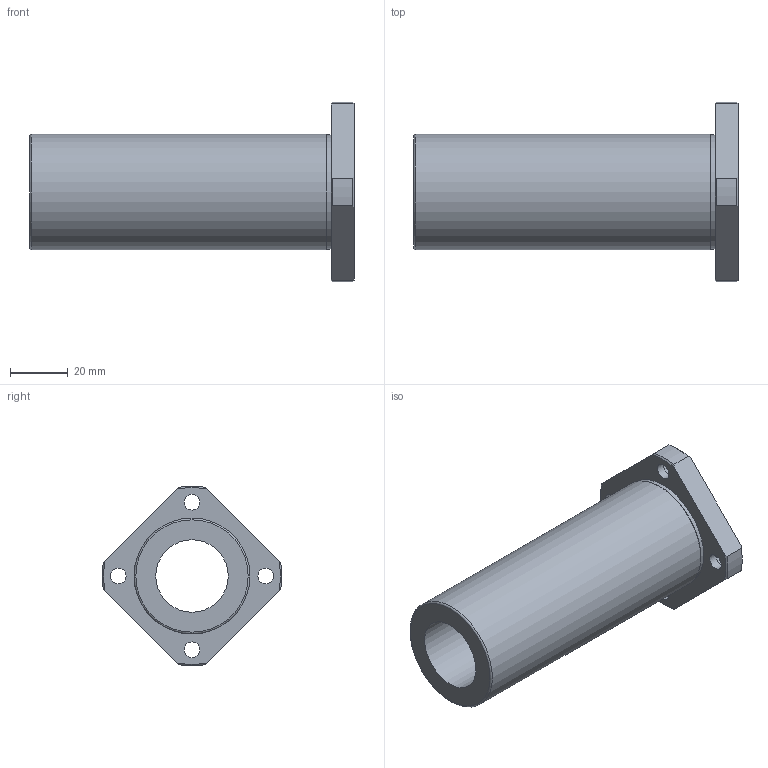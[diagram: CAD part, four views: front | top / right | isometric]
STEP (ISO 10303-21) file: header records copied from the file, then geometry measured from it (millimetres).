
FILE_DESCRIPTION(('STEP AP203'),'1');
FILE_NAME('//192.168.1.1/share/s-4 技術開発/s-4-4_CAD/s-4-4-3_見直し済み/002 修正済み/NFES-VL/NFES-VL_TOP/NFES-25VLUU.step','2022-03-08T00:54:12',(' '),(' '),'Spatial InterOp 3D',' ',' ');
FILE_SCHEMA(('CONFIG_CONTROL_DESIGN'));
Length unit declared in the file: millimetre
Products named in the file (1): 1
Bounding box: 112 x 61.92 x 61.92 mm (x, y, z)
Volume: 93430.5 mm3; surface area: 27790.1 mm2
Topology: 1 solids, 1 shells, 36 faces, 89 edges, 61 vertices
Faces by surface type: cylinder 15, plane 12, cone 8, torus 1
Full cylindrical faces by diameter (mm): 5.5 x4, 9 x4, 25 x1, 39.5 x1, 40 x1
Entity records: 1058 total; most frequent: CARTESIAN_POINT 211, DIRECTION 168, ORIENTED_EDGE 142, AXIS2_PLACEMENT_3D 76, EDGE_CURVE 71, EDGE_LOOP 64, VERTEX_POINT 55, FACE_OUTER_BOUND 48
